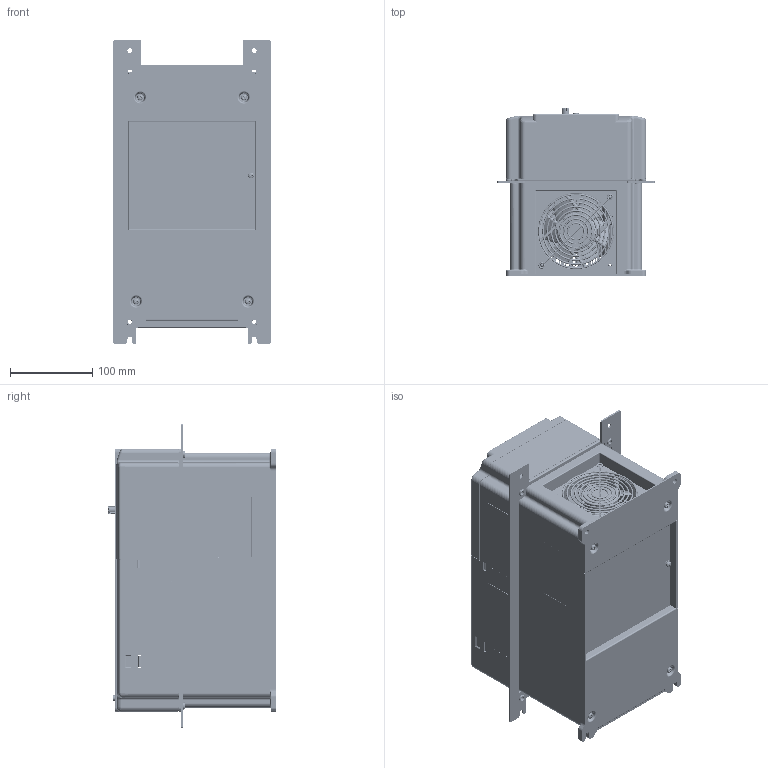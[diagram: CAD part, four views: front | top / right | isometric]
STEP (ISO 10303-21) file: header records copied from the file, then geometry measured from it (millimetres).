
FILE_DESCRIPTION((''),'2;1');
FILE_NAME('GD100-7R5G-2-PV_ASM','2019-10-30T',('Administrator'),(''),'PRO/ENGINEER BY PARAMETRIC TECHNOLOGY CORPORATION, 2010280','PRO/ENGINEER BY PARAMETRIC TECHNOLOGY CORPORATION, 2010280','');
FILE_SCHEMA(('CONFIG_CONTROL_DESIGN'));
Products named in the file (109): 80740009; 80740092; 80310003; 80740019; 70610008; 70610040; FENGSHANWANG; 78440056; 78440009; 80780073; 80740179; 80740178; 80880485; GB9074_4_M4X10; GB9074_13_M5X16; GB9074_4_M4X12; GB9074_13_M5X12; GB9074_4_M3X8; 77340010; GD350-015-4-FS_ASM; 2-21-19-092; B10435430_1; TERMINNAL_M4X8; B10435430_ASM; 3-60-15-418; PCB_FACILITY-15KW; PCB_TERMINAL_01; PCB_FACILITY-15KW_ASM; 22011-00040_MITSUBISHI; PA1704_CT1_A2; E-SR0402; E-SC1206; E-SR0603; E-SOT23; E-SC0402; E-SP-SMD45; E-SC0603; E-SOT23-5C; E-SR1206; E-SOT223-1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
Assembly tree (1048 placements, depth 5):
  GD100-7R5G-2-PV_ASM
    80740009
    80740092
    80310003
    80740019  x4
    70610008
    70610040
    FENGSHANWANG
    78440056
    78440009
    80780073
    80740179
    80740178
    80880485
    GD350-015-4-FS_ASM
      GB9074_4_M4X10  x17
      GB9074_13_M5X16  x4
      GB9074_4_M4X12  x7
      GB9074_13_M5X12  x2
      GB9074_4_M3X8  x3
      77340010
    GD350-015-4-ES_ASM
      2-21-19-092
      B10435430_ASM
        B10435430_1
        TERMINNAL_M4X8  x2
      3-60-15-418
      PCB_FACILITY-15KW_ASM
        PCB_FACILITY-15KW
        PCB_TERMINAL_01  x2
      22011-00040_MITSUBISHI
      0_GD350_PCB_ASM
        PA1704_CT1_A2_ASM
          PA1704_CT1_A2
          E-SR0402  x128
          E-SC1206  x15
          E-SR0603  x166
          E-SOT23  x94
          E-SC0402  x200
          E-SP-SMD45  x64
          E-SC0603  x142
          E-SOT23-5C  x17
          E-SR1206  x6
          E-SOT223-1
          E-PSW3-200T  x2
          E-SOP8-50-157A  x4
          E-SOP6-37-69
          E-SR1210  x13
          E-SOT223-1A  x3
          E-SDIN0207-2MM-TM  x3
          E-SL1210  x4
          E-SD0805
          E-SR2010  x6
          E-HEAD0103-T
          E-SC0805  x19
          E-SOP20-26-173  x3
          E-SOP8-50-157
          E-SOP8-50-157C  x5
          E-SL0906
          E-SOP4-100-173A  x10
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Bounding box: 191.2 x 204.15 x 370 mm (x, y, z)
Volume: 4441749.4 mm3; surface area: 3695887.5 mm2
Topology: 1038 solids, 1038 shells, 59205 faces, 151581 edges, 96276 vertices
Faces by surface type: plane 35859, cylinder 17736, sphere 3268, torus 775, extrusion 673, cone 559, bspline 319, revolution 16
Entity records: 884568 total; most frequent: CARTESIAN_POINT 187182, ORIENTED_EDGE 146442, DIRECTION 140582, EDGE_CURVE 73221, VECTOR 54634, LINE 53961, VERTEX_POINT 47700, AXIS2_PLACEMENT_3D 42966
